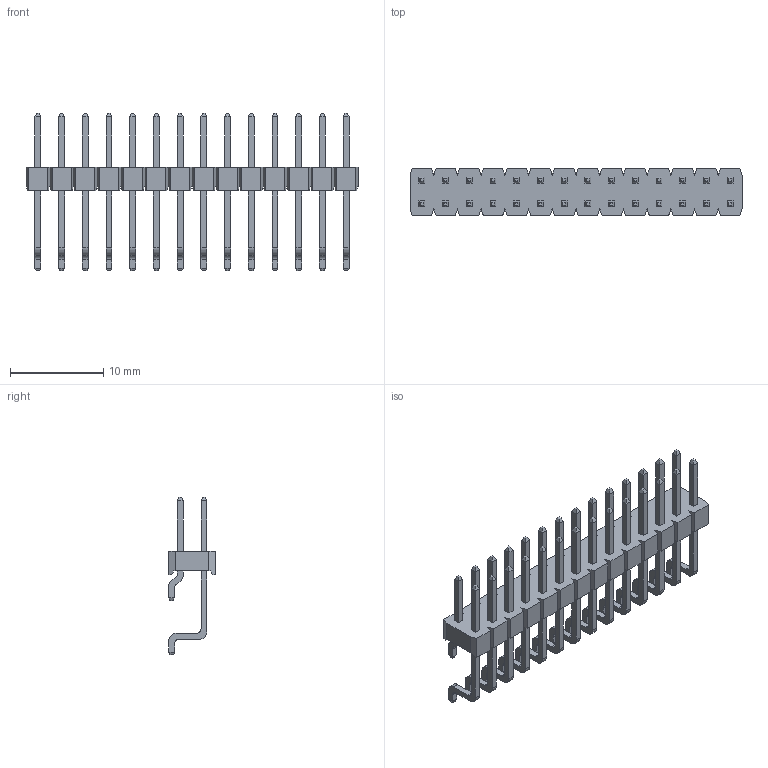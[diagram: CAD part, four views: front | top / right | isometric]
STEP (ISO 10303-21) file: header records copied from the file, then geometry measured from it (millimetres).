
FILE_DESCRIPTION(/* description */ (''),/* implementation_level */ '2;1');
FILE_NAME(/* name */ '961228-5500-XX-XX.stp',/* time_stamp */ '2008-06-11T13:25:54+02:00',/* author */ (''),/* organization */ (''),/* preprocessor_version */ 'ST-DEVELOPER v11',/* originating_system */ 'UGS - NX 5.0',/* authorisation */ '');
FILE_SCHEMA (('AUTOMOTIVE_DESIGN { 1 0 10303 214 1 1 1 1 }'));
Length unit declared in the file: millimetre
Products named in the file (1): 961228-5500-XX-XX
Bounding box: 35.56 x 5.02 x 16.9 mm (x, y, z)
Volume: 522.4 mm3; surface area: 1550.6 mm2
Topology: 1 solids, 1 shells, 872 faces, 2218 edges, 1404 vertices
Faces by surface type: plane 760, cylinder 112
Entity records: 25678 total; most frequent: CARTESIAN_POINT 4495, ORIENTED_EDGE 4436, DIRECTION 4188, EDGE_CURVE 2218, LINE 1994, VECTOR 1994, VERTEX_POINT 1404, AXIS2_PLACEMENT_3D 1097
